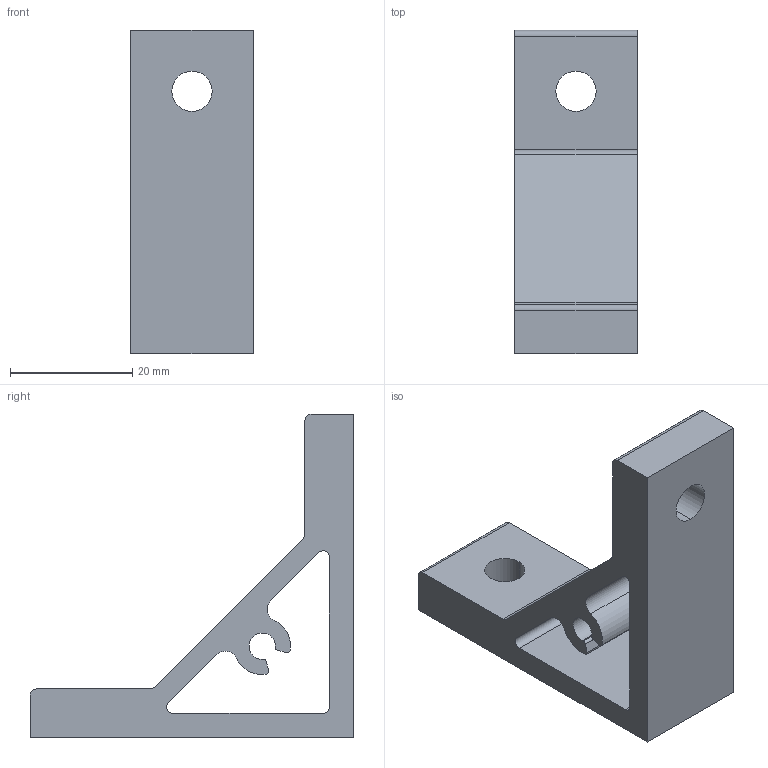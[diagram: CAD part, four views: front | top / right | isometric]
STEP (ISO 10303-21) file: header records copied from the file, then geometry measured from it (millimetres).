
FILE_DESCRIPTION (( 'STEP AP214' ), '1' );
FILE_NAME ('J3ARN.step', '2017-05-24T07:37:34', ( 'admin' ), ( '' ), 'SwSTEP 2.0', 'SolidWorks 2014', '' );
FILE_SCHEMA (( 'AUTOMOTIVE_DESIGN' ));
Length unit declared in the file: millimetre
Products named in the file (1): J3ARN
Bounding box: 20 x 53 x 53 mm (x, y, z)
Volume: 14549.2 mm3; surface area: 7912.8 mm2
Topology: 1 solids, 1 shells, 40 faces, 114 edges, 76 vertices
Faces by surface type: cylinder 25, plane 15
Entity records: 1374 total; most frequent: DIRECTION 246, CARTESIAN_POINT 231, ORIENTED_EDGE 228, EDGE_CURVE 114, AXIS2_PLACEMENT_3D 91, VERTEX_POINT 76, VECTOR 64, LINE 64
